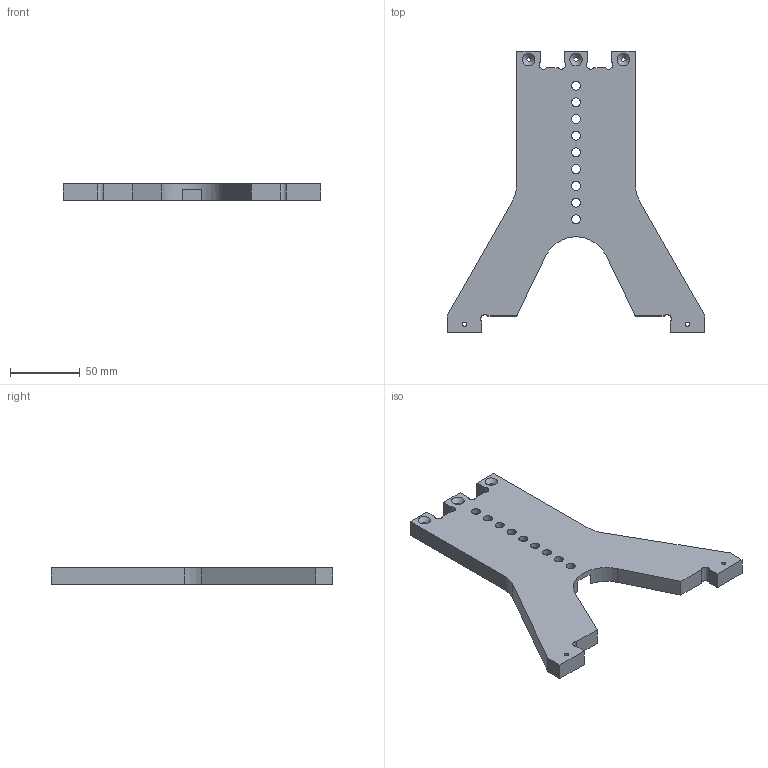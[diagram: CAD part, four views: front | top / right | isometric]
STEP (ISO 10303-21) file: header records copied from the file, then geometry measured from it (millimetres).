
FILE_DESCRIPTION(/* description */ ('','CAx-IF Rec.Pracs.---Representation and Presentation of Product Manufacturing Information (PMI)---4.0---2014-10-13'),/* implementation_level */ '2;1');
FILE_NAME(/* name */ 'TP-CameraPlate-12mm.step',/* time_stamp */ '2024-12-17T12:26:23+01:00',/* author */ (''),/* organization */ (''),/* preprocessor_version */ 'ST-DEVELOPER v20',/* originating_system */ 'Autodesk Translation Framework v13.20.0.188',/* authorisation */ '');
FILE_SCHEMA (('AP242_MANAGED_MODEL_BASED_3D_ENGINEERING_MIM_LF { 1 0 10303 442 1 1 4 }'));
Length unit declared in the file: millimetre
Products named in the file (1): CameraPlate
Bounding box: 185 x 202 x 12 mm (x, y, z)
Volume: 180002.4 mm3; surface area: 47833.5 mm2
Topology: 1 solids, 1 shells, 61 faces, 172 edges, 113 vertices
Faces by surface type: plane 29, cylinder 27, cone 5
Full cylindrical faces by diameter (mm): 3 x5, 6.5 x9
Entity records: 2076 total; most frequent: DIRECTION 357, CARTESIAN_POINT 347, ORIENTED_EDGE 344, EDGE_CURVE 172, AXIS2_PLACEMENT_3D 123, VERTEX_POINT 113, LINE 111, VECTOR 111
